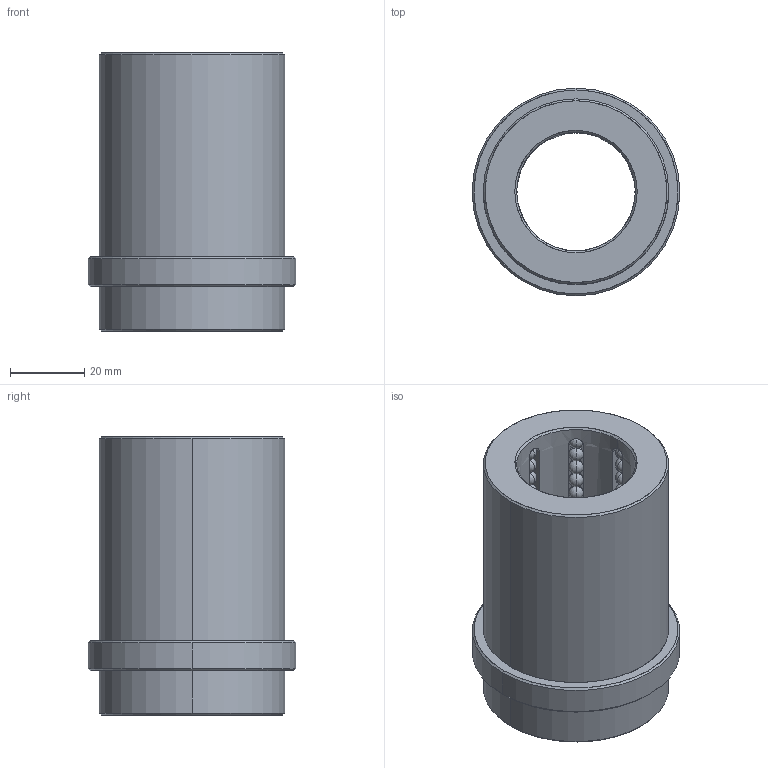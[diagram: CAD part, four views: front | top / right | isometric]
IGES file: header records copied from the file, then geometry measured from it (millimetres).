
Start section: START RECORD GO HERE.
Global section: file name: B8023263.igs; native system: DASSAULT SYSTEMES CATIA V5 R20 - www.3ds.com; preprocessor: CATIA Version 5 Release 20 ; author: Utente; organization: NB04-ASUS; date: 20200419.145901; units: millimetre
Bounding box: 56 x 56 x 75 mm (x, y, z)
Surface area: 33411.3 mm2 (no closed solid volume)
Topology: 0 solids, 0 shells, 588 faces, 2420 edges, 1396 vertices
Faces by surface type: revolution 560, plane 28
